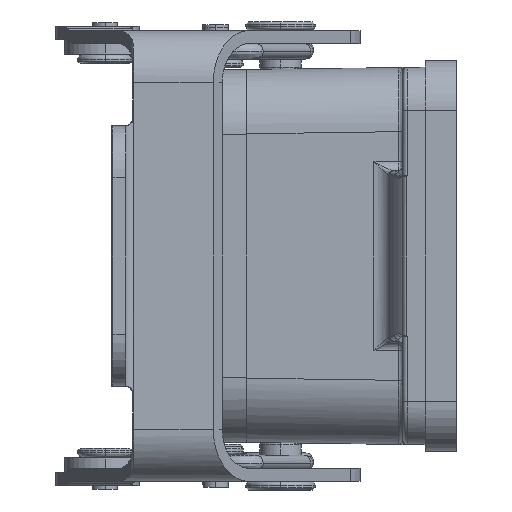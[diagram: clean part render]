
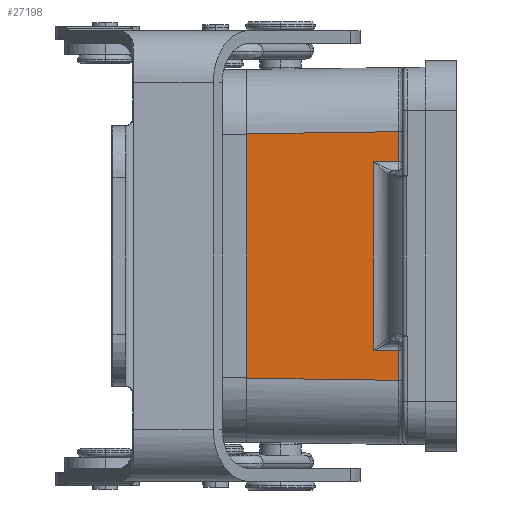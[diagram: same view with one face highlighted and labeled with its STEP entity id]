
A CAD part, left-side view. The second image highlights one B-rep face of the part: STEP entity #27198.
In plain terms, the highlighted planar face has unit normal (-1, 0.014, 0) as drawn and (-1, 0, 0.014) by its records, which use the part's own axes.
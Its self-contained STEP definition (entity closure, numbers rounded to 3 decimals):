
#1215 = CARTESIAN_POINT ( 'NONE',  ( -46.994, 23.975, 4.693 ) ) ;
#1277 = ORIENTED_EDGE ( 'NONE', *, *, #26236, .T. ) ;
#1467 = EDGE_CURVE ( 'NONE', #9788, #2521, #1836, .T. ) ;
#1510 = VECTOR ( 'NONE', #6347, 1000. ) ;
#1592 = VERTEX_POINT ( 'NONE', #28560 ) ;
#1729 = VERTEX_POINT ( 'NONE', #24823 ) ;
#1802 = CARTESIAN_POINT ( 'NONE',  ( -46.994, -14.345, 4.693 ) ) ;
#1836 = LINE ( 'NONE', #15463, #6867 ) ;
#2017 = DIRECTION ( 'NONE',  ( 0., -1., 0. ) ) ;
#2293 = VECTOR ( 'NONE', #16384, 1000. ) ;
#2521 = VERTEX_POINT ( 'NONE', #29109 ) ;
#2905 = B_SPLINE_CURVE_WITH_KNOTS ( 'NONE', 3,
 ( #14597, #12101, #29420, #21961 ),
 .UNSPECIFIED., .F., .F.,
 ( 4, 4 ),
 ( 0., 1. ),
 .UNSPECIFIED. ) ;
#3448 = EDGE_LOOP ( 'NONE', ( #4554, #4695, #27439, #1277, #17244, #19745, #8442, #29513 ) ) ;
#3599 = CARTESIAN_POINT ( 'NONE',  ( -46.75, -14.101, 22.2 ) ) ;
#3968 = VECTOR ( 'NONE', #16790, 1000. ) ;
#4554 = ORIENTED_EDGE ( 'NONE', *, *, #1467, .T. ) ;
#4695 = ORIENTED_EDGE ( 'NONE', *, *, #25401, .T. ) ;
#5476 = LINE ( 'NONE', #29236, #31021 ) ;
#6118 = FACE_OUTER_BOUND ( 'NONE', #3448, .T. ) ;
#6347 = DIRECTION ( 'NONE',  ( 0., -1., 0. ) ) ;
#6457 = CARTESIAN_POINT ( 'NONE',  ( -46.994, 23.975, 4.693 ) ) ;
#6781 = CARTESIAN_POINT ( 'NONE',  ( -46.955, 23.975, 7.524 ) ) ;
#6867 = VECTOR ( 'NONE', #17935, 1000. ) ;
#8186 = VERTEX_POINT ( 'NONE', #1802 ) ;
#8442 = ORIENTED_EDGE ( 'NONE', *, *, #27706, .F. ) ;
#9144 = CARTESIAN_POINT ( 'NONE',  ( -46.75, -10.869, 22.2 ) ) ;
#9186 = CARTESIAN_POINT ( 'NONE',  ( -46.994, 10.869, 4.693 ) ) ;
#9788 = VERTEX_POINT ( 'NONE', #9186 ) ;
#9826 = EDGE_CURVE ( 'NONE', #30292, #23938, #24455, .T. ) ;
#10298 = VECTOR ( 'NONE', #2017, 1000. ) ;
#10478 = AXIS2_PLACEMENT_3D ( 'NONE', #20761, #23573, #18813 ) ;
#12101 = CARTESIAN_POINT ( 'NONE',  ( -46.913, 14.263, 10.529 ) ) ;
#14596 = LINE ( 'NONE', #6781, #10298 ) ;
#14597 = CARTESIAN_POINT ( 'NONE',  ( -46.994, 14.345, 4.693 ) ) ;
#15463 = CARTESIAN_POINT ( 'NONE',  ( -46.75, 10.869, 22.2 ) ) ;
#16384 = DIRECTION ( 'NONE',  ( 0., -1., 0. ) ) ;
#16790 = DIRECTION ( 'NONE',  ( 0., -1., 0. ) ) ;
#17244 = ORIENTED_EDGE ( 'NONE', *, *, #20378, .F. ) ;
#17935 = DIRECTION ( 'NONE',  ( 0.014, 0., 1. ) ) ;
#18156 = PLANE ( 'NONE',  #10478 ) ;
#18813 = DIRECTION ( 'NONE',  ( 0.014, 0., 1. ) ) ;
#19163 = LINE ( 'NONE', #9144, #31560 ) ;
#19745 = ORIENTED_EDGE ( 'NONE', *, *, #9826, .F. ) ;
#20378 = EDGE_CURVE ( 'NONE', #23938, #8186, #5476, .T. ) ;
#20761 = CARTESIAN_POINT ( 'NONE',  ( -46.75, 23.975, 22.2 ) ) ;
#21881 = CARTESIAN_POINT ( 'NONE',  ( -46.75, 0., 22.2 ) ) ;
#21961 = CARTESIAN_POINT ( 'NONE',  ( -46.75, 14.101, 22.2 ) ) ;
#23573 = DIRECTION ( 'NONE',  ( -1., 0., 0.014 ) ) ;
#23665 = DIRECTION ( 'NONE',  ( -0.014, 0., -1. ) ) ;
#23938 = VERTEX_POINT ( 'NONE', #3599 ) ;
#24242 = DIRECTION ( 'NONE',  ( -0.014, -0.014, -1. ) ) ;
#24455 = LINE ( 'NONE', #21881, #3968 ) ;
#24823 = CARTESIAN_POINT ( 'NONE',  ( -46.994, 14.345, 4.693 ) ) ;
#25401 = EDGE_CURVE ( 'NONE', #2521, #1592, #14596, .T. ) ;
#25637 = CARTESIAN_POINT ( 'NONE',  ( -46.75, 14.101, 22.2 ) ) ;
#26236 = EDGE_CURVE ( 'NONE', #29796, #8186, #29789, .T. ) ;
#27198 = ADVANCED_FACE ( 'NONE', ( #6118 ), #18156, .T. ) ;
#27437 = LINE ( 'NONE', #6457, #1510 ) ;
#27439 = ORIENTED_EDGE ( 'NONE', *, *, #30607, .T. ) ;
#27706 = EDGE_CURVE ( 'NONE', #1729, #30292, #2905, .T. ) ;
#28560 = CARTESIAN_POINT ( 'NONE',  ( -46.955, -10.869, 7.524 ) ) ;
#29109 = CARTESIAN_POINT ( 'NONE',  ( -46.955, 10.869, 7.524 ) ) ;
#29236 = CARTESIAN_POINT ( 'NONE',  ( -46.747, -14.098, 22.411 ) ) ;
#29420 = CARTESIAN_POINT ( 'NONE',  ( -46.831, 14.182, 16.364 ) ) ;
#29513 = ORIENTED_EDGE ( 'NONE', *, *, #31906, .T. ) ;
#29789 = LINE ( 'NONE', #1215, #2293 ) ;
#29796 = VERTEX_POINT ( 'NONE', #30970 ) ;
#30292 = VERTEX_POINT ( 'NONE', #25637 ) ;
#30607 = EDGE_CURVE ( 'NONE', #1592, #29796, #19163, .T. ) ;
#30970 = CARTESIAN_POINT ( 'NONE',  ( -46.994, -10.869, 4.693 ) ) ;
#31021 = VECTOR ( 'NONE', #24242, 1000. ) ;
#31560 = VECTOR ( 'NONE', #23665, 1000. ) ;
#31906 = EDGE_CURVE ( 'NONE', #1729, #9788, #27437, .T. ) ;
